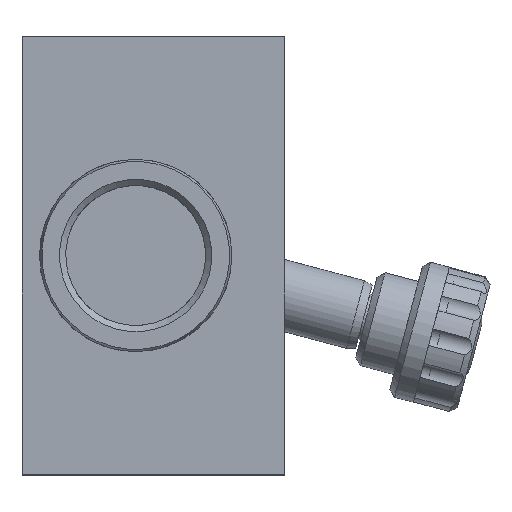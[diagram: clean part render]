
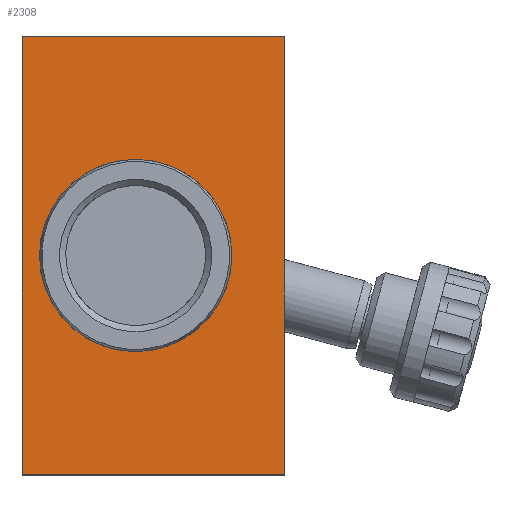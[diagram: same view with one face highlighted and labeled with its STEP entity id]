
A CAD part, top view. The second image highlights one B-rep face of the part: STEP entity #2308.
In plain terms, the highlighted planar face has unit normal (0, 0, 1).
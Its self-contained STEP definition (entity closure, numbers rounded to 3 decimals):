
#100=FACE_BOUND('',#579,.T.);
#238=CIRCLE('',#2663,11.);
#419=FACE_OUTER_BOUND('',#578,.T.);
#578=EDGE_LOOP('',(#1707,#1708,#1709,#1710));
#579=EDGE_LOOP('',(#1711));
#732=LINE('',#3785,#877);
#752=LINE('',#3885,#897);
#754=LINE('',#3890,#899);
#757=LINE('',#3894,#902);
#877=VECTOR('',#2986,10.);
#897=VECTOR('',#3084,10.);
#899=VECTOR('',#3088,10.);
#902=VECTOR('',#3093,10.);
#1024=VERTEX_POINT('',#3782);
#1025=VERTEX_POINT('',#3784);
#1045=VERTEX_POINT('',#3875);
#1048=VERTEX_POINT('',#3883);
#1050=VERTEX_POINT('',#3889);
#1252=EDGE_CURVE('',#1025,#1024,#732,.T.);
#1287=EDGE_CURVE('',#1045,#1045,#238,.T.);
#1292=EDGE_CURVE('',#1024,#1048,#752,.T.);
#1294=EDGE_CURVE('',#1050,#1025,#754,.T.);
#1297=EDGE_CURVE('',#1048,#1050,#757,.T.);
#1707=ORIENTED_EDGE('',*,*,#1297,.T.);
#1708=ORIENTED_EDGE('',*,*,#1294,.T.);
#1709=ORIENTED_EDGE('',*,*,#1252,.T.);
#1710=ORIENTED_EDGE('',*,*,#1292,.T.);
#1711=ORIENTED_EDGE('',*,*,#1287,.T.);
#2235=PLANE('',#2668);
#2308=ADVANCED_FACE('',(#419,#100),#2235,.T.);
#2663=AXIS2_PLACEMENT_3D('',#3876,#3075,#3076);
#2668=AXIS2_PLACEMENT_3D('',#3895,#3094,#3095);
#2986=DIRECTION('',(0.,1.,0.));
#3075=DIRECTION('center_axis',(0.,0.,-1.));
#3076=DIRECTION('ref_axis',(1.,0.,0.));
#3084=DIRECTION('',(-1.,0.,0.));
#3088=DIRECTION('',(1.,0.,0.));
#3093=DIRECTION('',(0.,-1.,0.));
#3094=DIRECTION('center_axis',(0.,0.,1.));
#3095=DIRECTION('ref_axis',(1.,0.,0.));
#3782=CARTESIAN_POINT('',(17.,25.,68.));
#3784=CARTESIAN_POINT('',(17.,-25.,68.));
#3785=CARTESIAN_POINT('',(17.,-25.,68.));
#3875=CARTESIAN_POINT('',(-11.,0.,68.));
#3876=CARTESIAN_POINT('Origin',(0.,0.,68.));
#3883=CARTESIAN_POINT('',(-13.,25.,68.));
#3885=CARTESIAN_POINT('',(17.,25.,68.));
#3889=CARTESIAN_POINT('',(-13.,-25.,68.));
#3890=CARTESIAN_POINT('',(-13.,-25.,68.));
#3894=CARTESIAN_POINT('',(-13.,25.,68.));
#3895=CARTESIAN_POINT('Origin',(2.,0.,68.));
